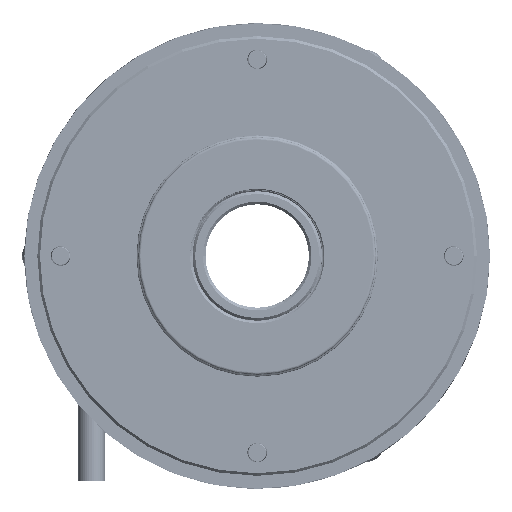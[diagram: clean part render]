
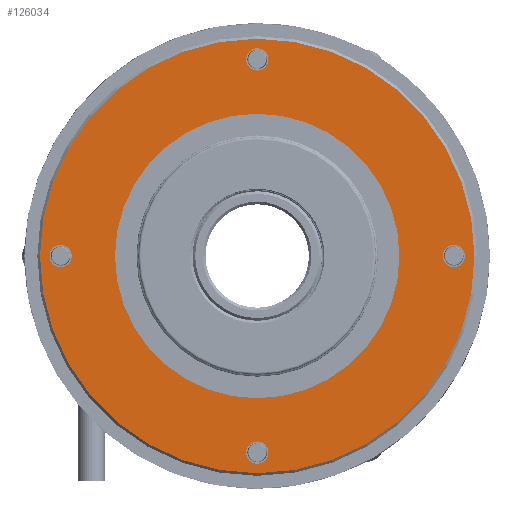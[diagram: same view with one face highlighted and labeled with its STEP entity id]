
A CAD part, left-side view. The second image highlights one B-rep face of the part: STEP entity #126034.
In plain terms, the highlighted planar face has unit normal (-1, 0, 0).
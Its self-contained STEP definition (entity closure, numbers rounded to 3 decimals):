
#825 = CARTESIAN_POINT ( 'NONE',  ( 8.2, 32.784, -8.083 ) ) ;
#1060 = AXIS2_PLACEMENT_3D ( 'NONE', #156480, #81338, #6068 ) ;
#6041 = CIRCLE ( 'NONE', #49575, 2.15 ) ;
#6068 = DIRECTION ( 'NONE',  ( 0., -1., 0. ) ) ;
#6259 = CARTESIAN_POINT ( 'NONE',  ( 8.2, 30.634, -8.083 ) ) ;
#6460 = FACE_BOUND ( 'NONE', #75264, .T. ) ;
#7502 = DIRECTION ( 'NONE',  ( 0., -1., 0. ) ) ;
#8162 = DIRECTION ( 'NONE',  ( 0., -1., 0. ) ) ;
#12844 = EDGE_LOOP ( 'NONE', ( #137029, #121371 ) ) ;
#14706 = AXIS2_PLACEMENT_3D ( 'NONE', #157833, #82755, #7502 ) ;
#16263 = CARTESIAN_POINT ( 'NONE',  ( 8.2, 58.134, 29.917 ) ) ;
#18425 = CIRCLE ( 'NONE', #14706, 2.15 ) ;
#18983 = DIRECTION ( 'NONE',  ( 0., -1., 0. ) ) ;
#19809 = CARTESIAN_POINT ( 'NONE',  ( 8.2, 68.634, 29.917 ) ) ;
#20246 = CARTESIAN_POINT ( 'NONE',  ( 8.2, 32.784, 67.917 ) ) ;
#20747 = AXIS2_PLACEMENT_3D ( 'NONE', #130908, #55636, #143520 ) ;
#25811 = CARTESIAN_POINT ( 'NONE',  ( 8.2, 68.634, 29.917 ) ) ;
#26018 = CARTESIAN_POINT ( 'NONE',  ( 8.2, 66.484, 29.917 ) ) ;
#26044 = VERTEX_POINT ( 'NONE', #26018 ) ;
#26442 = CIRCLE ( 'NONE', #46212, 27.5 ) ;
#30409 = AXIS2_PLACEMENT_3D ( 'NONE', #125439, #50194, #138052 ) ;
#32100 = FACE_BOUND ( 'NONE', #49323, .T. ) ;
#32491 = DIRECTION ( 'NONE',  ( 0., -1., 0. ) ) ;
#32813 = ORIENTED_EDGE ( 'NONE', *, *, #141119, .T. ) ;
#38473 = DIRECTION ( 'NONE',  ( 0., -1., 0. ) ) ;
#41344 = VERTEX_POINT ( 'NONE', #825 ) ;
#42878 = CIRCLE ( 'NONE', #47639, 2.15 ) ;
#46212 = AXIS2_PLACEMENT_3D ( 'NONE', #51603, #139445, #64220 ) ;
#47639 = AXIS2_PLACEMENT_3D ( 'NONE', #25811, #113777, #38473 ) ;
#47745 = CARTESIAN_POINT ( 'NONE',  ( 8.2, 30.634, 29.917 ) ) ;
#49323 = EDGE_LOOP ( 'NONE', ( #161588, #76168 ) ) ;
#49575 = AXIS2_PLACEMENT_3D ( 'NONE', #6259, #94178, #18983 ) ;
#50005 = CARTESIAN_POINT ( 'NONE',  ( 8.2, 30.634, 29.917 ) ) ;
#50156 = CIRCLE ( 'NONE', #158875, 2.15 ) ;
#50194 = DIRECTION ( 'NONE',  ( -1., 0., 0. ) ) ;
#51603 = CARTESIAN_POINT ( 'NONE',  ( 8.2, 30.634, 29.917 ) ) ;
#52541 = CARTESIAN_POINT ( 'NONE',  ( 8.2, -7.366, 29.917 ) ) ;
#52722 = AXIS2_PLACEMENT_3D ( 'NONE', #52541, #140382, #65168 ) ;
#55636 = DIRECTION ( 'NONE',  ( -1., 0., 0. ) ) ;
#56017 = EDGE_LOOP ( 'NONE', ( #126620, #64298 ) ) ;
#57318 = CARTESIAN_POINT ( 'NONE',  ( 8.2, -5.216, 29.917 ) ) ;
#57899 = AXIS2_PLACEMENT_3D ( 'NONE', #61155, #148971, #73717 ) ;
#58246 = CIRCLE ( 'NONE', #1060, 2.15 ) ;
#59420 = ORIENTED_EDGE ( 'NONE', *, *, #70621, .T. ) ;
#60333 = DIRECTION ( 'NONE',  ( 0., 1., 0. ) ) ;
#61155 = CARTESIAN_POINT ( 'NONE',  ( 8.2, 30.634, 29.917 ) ) ;
#62189 = EDGE_CURVE ( 'NONE', #129434, #141240, #92109, .T. ) ;
#62626 = DIRECTION ( 'NONE',  ( 0., 1., 0. ) ) ;
#63966 = CARTESIAN_POINT ( 'NONE',  ( 8.2, 70.784, 29.917 ) ) ;
#64220 = DIRECTION ( 'NONE',  ( 0., 1., 0. ) ) ;
#64298 = ORIENTED_EDGE ( 'NONE', *, *, #69899, .F. ) ;
#64365 = EDGE_CURVE ( 'NONE', #139518, #110040, #58246, .T. ) ;
#65168 = DIRECTION ( 'NONE',  ( 0., -1., 0. ) ) ;
#65475 = FACE_BOUND ( 'NONE', #76340, .T. ) ;
#67050 = EDGE_CURVE ( 'NONE', #41344, #86511, #139663, .T. ) ;
#69899 = EDGE_CURVE ( 'NONE', #77015, #26044, #50156, .T. ) ;
#70621 = EDGE_CURVE ( 'NONE', #112474, #128158, #130220, .T. ) ;
#73717 = DIRECTION ( 'NONE',  ( 0., 1., 0. ) ) ;
#75264 = EDGE_LOOP ( 'NONE', ( #153301, #133236 ) ) ;
#76168 = ORIENTED_EDGE ( 'NONE', *, *, #67050, .F. ) ;
#76340 = EDGE_LOOP ( 'NONE', ( #119040, #157132 ) ) ;
#77015 = VERTEX_POINT ( 'NONE', #63966 ) ;
#78877 = CIRCLE ( 'NONE', #52722, 2.15 ) ;
#81338 = DIRECTION ( 'NONE',  ( -1., 0., 0. ) ) ;
#82755 = DIRECTION ( 'NONE',  ( -1., 0., 0. ) ) ;
#83421 = DIRECTION ( 'NONE',  ( -1., 0., 0. ) ) ;
#86204 = CARTESIAN_POINT ( 'NONE',  ( 8.2, -9.516, 29.917 ) ) ;
#86431 = CARTESIAN_POINT ( 'NONE',  ( 8.2, 28.484, -8.083 ) ) ;
#86511 = VERTEX_POINT ( 'NONE', #86431 ) ;
#89217 = AXIS2_PLACEMENT_3D ( 'NONE', #158511, #83421, #8162 ) ;
#92109 = CIRCLE ( 'NONE', #30409, 2.15 ) ;
#93724 = AXIS2_PLACEMENT_3D ( 'NONE', #50005, #137841, #62626 ) ;
#94178 = DIRECTION ( 'NONE',  ( -1., 0., 0. ) ) ;
#94904 = FACE_OUTER_BOUND ( 'NONE', #12844, .T. ) ;
#96879 = EDGE_CURVE ( 'NONE', #103810, #131552, #124618, .T. ) ;
#103810 = VERTEX_POINT ( 'NONE', #108545 ) ;
#107636 = DIRECTION ( 'NONE',  ( -1., 0., 0. ) ) ;
#108545 = CARTESIAN_POINT ( 'NONE',  ( 8.2, 72.634, 29.917 ) ) ;
#110040 = VERTEX_POINT ( 'NONE', #86204 ) ;
#112474 = VERTEX_POINT ( 'NONE', #138817 ) ;
#113777 = DIRECTION ( 'NONE',  ( -1., 0., 0. ) ) ;
#116896 = EDGE_CURVE ( 'NONE', #131552, #103810, #129138, .T. ) ;
#119040 = ORIENTED_EDGE ( 'NONE', *, *, #141388, .F. ) ;
#121371 = ORIENTED_EDGE ( 'NONE', *, *, #116896, .F. ) ;
#124618 = CIRCLE ( 'NONE', #93724, 42. ) ;
#124963 = CARTESIAN_POINT ( 'NONE',  ( 8.2, -11.366, 29.917 ) ) ;
#125439 = CARTESIAN_POINT ( 'NONE',  ( 8.2, 30.634, 67.917 ) ) ;
#126034 = ADVANCED_FACE ( 'NONE', ( #65475, #6460, #32100, #161531, #128335, #94904 ), #157965, .T. ) ;
#126620 = ORIENTED_EDGE ( 'NONE', *, *, #143278, .F. ) ;
#128158 = VERTEX_POINT ( 'NONE', #16263 ) ;
#128335 = FACE_BOUND ( 'NONE', #140999, .T. ) ;
#129138 = CIRCLE ( 'NONE', #57899, 42. ) ;
#129434 = VERTEX_POINT ( 'NONE', #20246 ) ;
#130220 = CIRCLE ( 'NONE', #151763, 27.5 ) ;
#130908 = CARTESIAN_POINT ( 'NONE',  ( 8.2, 30.634, -8.083 ) ) ;
#131552 = VERTEX_POINT ( 'NONE', #124963 ) ;
#133236 = ORIENTED_EDGE ( 'NONE', *, *, #64365, .F. ) ;
#135577 = DIRECTION ( 'NONE',  ( 1., 0., 0. ) ) ;
#137029 = ORIENTED_EDGE ( 'NONE', *, *, #96879, .F. ) ;
#137841 = DIRECTION ( 'NONE',  ( 1., 0., 0. ) ) ;
#138052 = DIRECTION ( 'NONE',  ( 0., -1., 0. ) ) ;
#138817 = CARTESIAN_POINT ( 'NONE',  ( 8.2, 3.134, 29.917 ) ) ;
#139445 = DIRECTION ( 'NONE',  ( 1., 0., 0. ) ) ;
#139518 = VERTEX_POINT ( 'NONE', #57318 ) ;
#139663 = CIRCLE ( 'NONE', #20747, 2.15 ) ;
#140382 = DIRECTION ( 'NONE',  ( -1., 0., 0. ) ) ;
#140999 = EDGE_LOOP ( 'NONE', ( #32813, #59420 ) ) ;
#141119 = EDGE_CURVE ( 'NONE', #128158, #112474, #26442, .T. ) ;
#141240 = VERTEX_POINT ( 'NONE', #154662 ) ;
#141388 = EDGE_CURVE ( 'NONE', #141240, #129434, #18425, .T. ) ;
#142125 = EDGE_CURVE ( 'NONE', #110040, #139518, #78877, .T. ) ;
#142348 = EDGE_CURVE ( 'NONE', #86511, #41344, #6041, .T. ) ;
#143278 = EDGE_CURVE ( 'NONE', #26044, #77015, #42878, .T. ) ;
#143520 = DIRECTION ( 'NONE',  ( 0., -1., 0. ) ) ;
#148971 = DIRECTION ( 'NONE',  ( 1., 0., 0. ) ) ;
#151763 = AXIS2_PLACEMENT_3D ( 'NONE', #47745, #135577, #60333 ) ;
#153301 = ORIENTED_EDGE ( 'NONE', *, *, #142125, .F. ) ;
#154662 = CARTESIAN_POINT ( 'NONE',  ( 8.2, 28.484, 67.917 ) ) ;
#156480 = CARTESIAN_POINT ( 'NONE',  ( 8.2, -7.366, 29.917 ) ) ;
#157132 = ORIENTED_EDGE ( 'NONE', *, *, #62189, .F. ) ;
#157833 = CARTESIAN_POINT ( 'NONE',  ( 8.2, 30.634, 67.917 ) ) ;
#157965 = PLANE ( 'NONE',  #89217 ) ;
#158511 = CARTESIAN_POINT ( 'NONE',  ( 8.2, 58.134, 29.917 ) ) ;
#158875 = AXIS2_PLACEMENT_3D ( 'NONE', #19809, #107636, #32491 ) ;
#161531 = FACE_BOUND ( 'NONE', #56017, .T. ) ;
#161588 = ORIENTED_EDGE ( 'NONE', *, *, #142348, .F. ) ;
